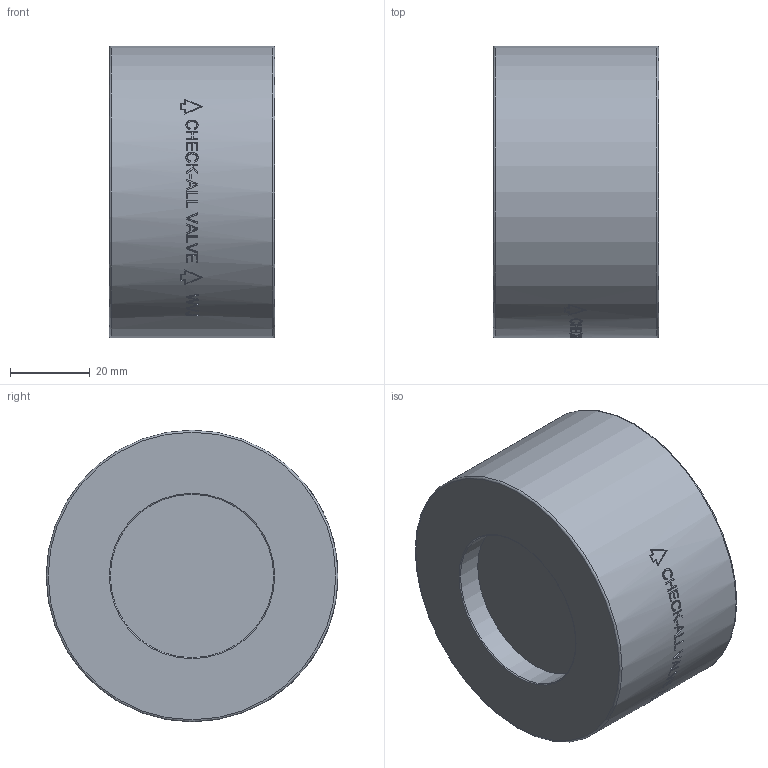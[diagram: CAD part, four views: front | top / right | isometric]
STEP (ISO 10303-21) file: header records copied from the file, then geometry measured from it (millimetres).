
FILE_DESCRIPTION( ( 'Unknown' ), '1' );
FILE_NAME( 'Y:/ENGR/3D Solid Edge Models/WV/WV-PRT/WVJ.stp', 'Unknown', ( 'Unknown' ), ( 'Unknown' ), 'PSStep 14.0', 'Unknown', ' ' );
FILE_SCHEMA( ( 'AUTOMOTIVE_DESIGN { 1 0 10303 214 1 1 1 1 }' ) );
Length unit declared in the file: inch
Products named in the file (1): 1
Bounding box: 41.4 x 73.03 x 73.03 mm (x, y, z)
Volume: 156673.4 mm3; surface area: 19449.7 mm2
Topology: 1 solids, 1 shells, 200 faces, 525 edges, 352 vertices
Faces by surface type: plane 114, bspline 56, cylinder 26, torus 4
Full cylindrical faces by diameter (mm): 40.894 x2, 73.025 x1
Entity records: 9857 total; most frequent: CARTESIAN_POINT 4494, ORIENTED_EDGE 1032, EDGE_CURVE 516, B_SPLINE_CURVE_WITH_KNOTS 506, VERTEX_POINT 350, DIRECTION 310, EDGE_LOOP 232, FACE_OUTER_BOUND 207
